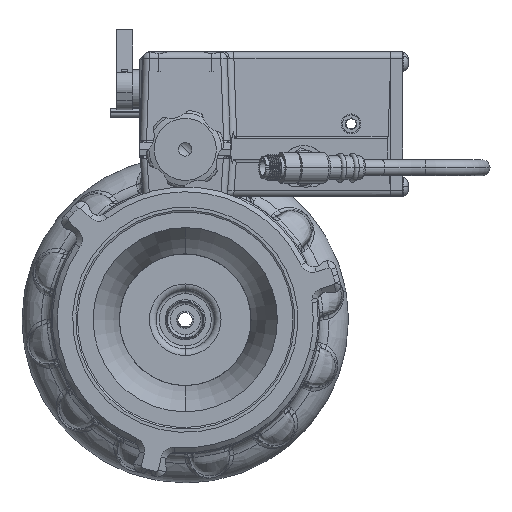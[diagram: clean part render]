
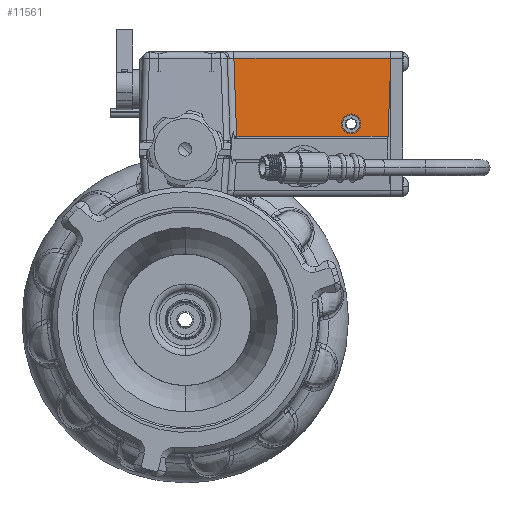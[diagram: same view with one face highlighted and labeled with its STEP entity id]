
A CAD part, left-side view. The second image highlights one B-rep face of the part: STEP entity #11561.
In plain terms, the highlighted planar face has unit normal (-0.999, 0, 0.035).
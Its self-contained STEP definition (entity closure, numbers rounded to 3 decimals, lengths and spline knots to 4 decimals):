
#328 = FACE_BOUND ( 'NONE', #50911, .T. ) ;
#339 = FACE_OUTER_BOUND ( 'NONE', #50898, .T. ) ;
#11014 = EDGE_CURVE ( 'NONE', #66697, #66696, #64708, .T. ) ;
#11096 = EDGE_CURVE ( 'NONE', #66696, #66697, #64724, .T. ) ;
#11117 = EDGE_CURVE ( 'NONE', #66748, #66663, #75387, .T. ) ;
#11171 = EDGE_CURVE ( 'NONE', #23806, #23805, #75435, .T. ) ;
#11221 = EDGE_CURVE ( 'NONE', #66663, #23806, #75494, .T. ) ;
#11223 = EDGE_CURVE ( 'NONE', #23805, #23802, #75499, .T. ) ;
#11226 = EDGE_CURVE ( 'NONE', #23802, #66748, #75486, .T. ) ;
#11561 = ADVANCED_FACE ( 'NONE', ( #339, #328 ), #27426, .T. ) ;
#23802 = VERTEX_POINT ( 'NONE', #43853 ) ;
#23805 = VERTEX_POINT ( 'NONE', #43859 ) ;
#23806 = VERTEX_POINT ( 'NONE', #43860 ) ;
#27408 = CARTESIAN_POINT ( 'NONE',  ( -2.9672, -3.9951, 3.235 ) ) ;
#27426 = PLANE ( 'NONE',  #65273 ) ;
#27428 = DIRECTION ( 'NONE',  ( -0.999, 0., 0.035 ) ) ;
#27429 = DIRECTION ( 'NONE',  ( 0.035, 0., 0.999 ) ) ;
#29832 = CARTESIAN_POINT ( 'NONE',  ( -2.9586, -0.9764, 3.4806 ) ) ;
#29867 = CARTESIAN_POINT ( 'NONE',  ( -2.9443, -3.15, 3.8885 ) ) ;
#29868 = CARTESIAN_POINT ( 'NONE',  ( -2.9561, -3.15, 3.5515 ) ) ;
#29917 = CARTESIAN_POINT ( 'NONE',  ( -2.9068, -0.9246, 4.9644 ) ) ;
#37588 = ORIENTED_EDGE ( 'NONE', *, *, #11221, .T. ) ;
#37590 = ORIENTED_EDGE ( 'NONE', *, *, #11171, .T. ) ;
#37592 = ORIENTED_EDGE ( 'NONE', *, *, #11223, .T. ) ;
#37594 = ORIENTED_EDGE ( 'NONE', *, *, #11226, .T. ) ;
#37596 = ORIENTED_EDGE ( 'NONE', *, *, #11117, .T. ) ;
#37599 = ORIENTED_EDGE ( 'NONE', *, *, #11096, .F. ) ;
#37600 = ORIENTED_EDGE ( 'NONE', *, *, #11014, .F. ) ;
#43853 = CARTESIAN_POINT ( 'NONE',  ( -2.9068, -3.9, 4.9644 ) ) ;
#43859 = CARTESIAN_POINT ( 'NONE',  ( -2.9105, -3.9, 4.8578 ) ) ;
#43860 = CARTESIAN_POINT ( 'NONE',  ( -2.9586, -3.8519, 3.4806 ) ) ;
#50898 = EDGE_LOOP ( 'NONE', ( #37588, #37590, #37592, #37594, #37596 ) ) ;
#50911 = EDGE_LOOP ( 'NONE', ( #37599, #37600 ) ) ;
#52304 = CARTESIAN_POINT ( 'NONE',  ( -2.9443, -3.487, 3.8885 ) ) ;
#52305 = CARTESIAN_POINT ( 'NONE',  ( -2.9561, -3.487, 3.5515 ) ) ;
#52306 = CARTESIAN_POINT ( 'NONE',  ( -2.9561, -3.15, 3.5515 ) ) ;
#52307 = CARTESIAN_POINT ( 'NONE',  ( -2.9443, -3.15, 3.8885 ) ) ;
#52508 = CARTESIAN_POINT ( 'NONE',  ( -2.9443, -2.813, 3.8885 ) ) ;
#52509 = CARTESIAN_POINT ( 'NONE',  ( -2.9443, -3.15, 3.8885 ) ) ;
#52511 = CARTESIAN_POINT ( 'NONE',  ( -2.9561, -2.813, 3.5515 ) ) ;
#52512 = CARTESIAN_POINT ( 'NONE',  ( -2.9561, -3.15, 3.5515 ) ) ;
#52558 = CARTESIAN_POINT ( 'NONE',  ( -2.967, -0.9848, 3.2394 ) ) ;
#52559 = DIRECTION ( 'NONE',  ( -0.035, -0.035, -0.999 ) ) ;
#52675 = CARTESIAN_POINT ( 'NONE',  ( -2.967, -3.8435, 3.2403 ) ) ;
#52681 = DIRECTION ( 'NONE',  ( 0.035, -0.035, 0.999 ) ) ;
#52797 = CARTESIAN_POINT ( 'NONE',  ( -2.9586, -3.9951, 3.4806 ) ) ;
#52798 = DIRECTION ( 'NONE',  ( 0., -1., 0. ) ) ;
#52803 = CARTESIAN_POINT ( 'NONE',  ( -2.9672, -3.9, 3.235 ) ) ;
#52804 = DIRECTION ( 'NONE',  ( 0.035, 0., 0.999 ) ) ;
#52807 = CARTESIAN_POINT ( 'NONE',  ( -2.9068, -0.7955, 4.9644 ) ) ;
#52808 = DIRECTION ( 'NONE',  ( 0., 1., 0. ) ) ;
#64708 =( BOUNDED_CURVE ( )  B_SPLINE_CURVE ( 3, ( #52306, #52305, #52304, #52307 ),
 .UNSPECIFIED., .F., .F. ) 
 B_SPLINE_CURVE_WITH_KNOTS ( ( 4, 4 ),
 ( 0., 3.1416 ),
 .UNSPECIFIED. ) 
 CURVE ( )  GEOMETRIC_REPRESENTATION_ITEM ( )  RATIONAL_B_SPLINE_CURVE ( ( 1., 0.333, 0.333, 1. ) ) 
 REPRESENTATION_ITEM ( '' )  );
#64724 =( BOUNDED_CURVE ( )  B_SPLINE_CURVE ( 3, ( #52509, #52508, #52511, #52512 ),
 .UNSPECIFIED., .F., .F. ) 
 B_SPLINE_CURVE_WITH_KNOTS ( ( 4, 4 ),
 ( 3.1416, 6.2832 ),
 .UNSPECIFIED. ) 
 CURVE ( )  GEOMETRIC_REPRESENTATION_ITEM ( )  RATIONAL_B_SPLINE_CURVE ( ( 1., 0.333, 0.333, 1. ) ) 
 REPRESENTATION_ITEM ( '' )  );
#65273 = AXIS2_PLACEMENT_3D ( 'NONE', #27408, #27428, #27429 ) ;
#66663 = VERTEX_POINT ( 'NONE', #29832 ) ;
#66696 = VERTEX_POINT ( 'NONE', #29867 ) ;
#66697 = VERTEX_POINT ( 'NONE', #29868 ) ;
#66748 = VERTEX_POINT ( 'NONE', #29917 ) ;
#75387 = LINE ( 'NONE', #52558, #75390 ) ;
#75390 = VECTOR ( 'NONE', #52559, 39.3701 ) ;
#75435 = LINE ( 'NONE', #52675, #75442 ) ;
#75442 = VECTOR ( 'NONE', #52681, 39.3701 ) ;
#75486 = LINE ( 'NONE', #52807, #75503 ) ;
#75491 = VECTOR ( 'NONE', #52804, 39.3701 ) ;
#75494 = LINE ( 'NONE', #52797, #75496 ) ;
#75496 = VECTOR ( 'NONE', #52798, 39.3701 ) ;
#75499 = LINE ( 'NONE', #52803, #75491 ) ;
#75503 = VECTOR ( 'NONE', #52808, 39.3701 ) ;
